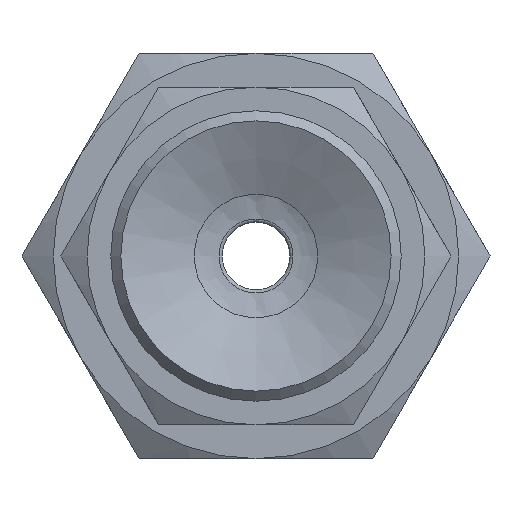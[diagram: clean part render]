
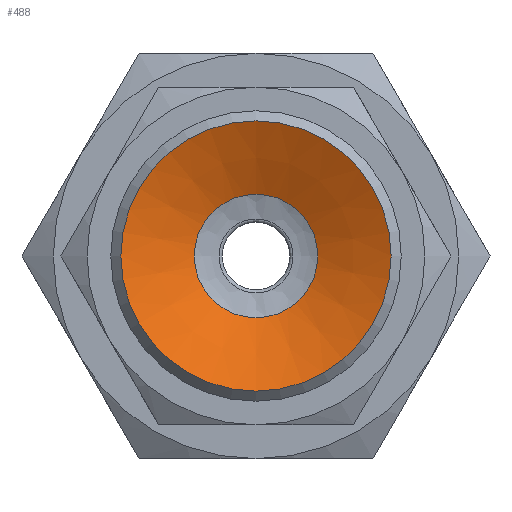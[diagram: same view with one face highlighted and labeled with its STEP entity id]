
A CAD part, front view. The second image highlights one B-rep face of the part: STEP entity #488.
In plain terms, the highlighted conical face has half-angle 65 degrees and reference radius 1.427 mm.
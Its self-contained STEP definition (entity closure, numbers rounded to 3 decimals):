
#488=ADVANCED_FACE('',(#720,#721),#722,.F.);
#720=FACE_BOUND('',#969,.T.);
#721=FACE_OUTER_BOUND('',#970,.T.);
#722=CONICAL_SURFACE('',#971,1.427,1.134);
#969=EDGE_LOOP('',(#1639));
#970=EDGE_LOOP('',(#1640));
#971=AXIS2_PLACEMENT_3D('',#1641,#1642,#1643);
#1639=ORIENTED_EDGE('',*,*,#1853,.T.);
#1640=ORIENTED_EDGE('',*,*,#1843,.T.);
#1641=CARTESIAN_POINT('',(0.0,7.096,0.));
#1642=DIRECTION('',(-0.0,-1.0,0.));
#1643=DIRECTION('',(0.0,0.,-1.0));
#1843=EDGE_CURVE('',#2130,#2130,#2131,.T.);
#1853=EDGE_CURVE('',#2150,#2150,#2151,.T.);
#2130=VERTEX_POINT('',#2778);
#2131=CIRCLE('',#2779,4.0);
#2150=VERTEX_POINT('',#2798);
#2151=CIRCLE('',#2799,1.828);
#2778=CARTESIAN_POINT('',(0.0,5.896,-4.0));
#2779=AXIS2_PLACEMENT_3D('',#3034,#3035,#3036);
#2798=CARTESIAN_POINT('',(0.0,6.909,-1.828));
#2799=AXIS2_PLACEMENT_3D('',#3064,#3065,#3066);
#3034=CARTESIAN_POINT('',(0.0,5.896,0.0));
#3035=DIRECTION('',(0.0,-1.0,0.));
#3036=DIRECTION('',(0.0,0.,-1.0));
#3064=CARTESIAN_POINT('',(0.0,6.909,0.0));
#3065=DIRECTION('',(0.0,1.0,0.));
#3066=DIRECTION('',(0.0,0.,-1.0));
